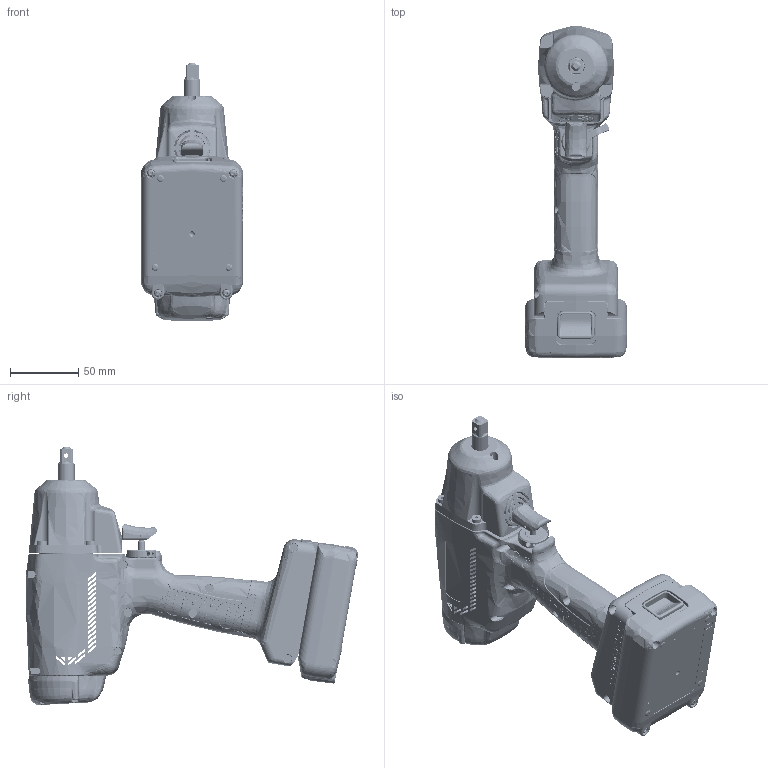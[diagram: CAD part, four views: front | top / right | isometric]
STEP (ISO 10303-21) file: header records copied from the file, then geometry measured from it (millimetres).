
FILE_DESCRIPTION (( 'STEP AP203' ), '1' );
FILE_NAME ('UBX-T70.STEP', '2020-09-01T22:47:31', ( '' ), ( '' ), 'SwSTEP 2.0', 'SolidWorks 2016', '' );
FILE_SCHEMA (( 'CONFIG_CONTROL_DESIGN' ));
Products named in the file (16): スイッチケース_電産; BP65案_L_銘板有り(UBX-T70); 倣俀摢; パルス部; 12F-013-0_本体上フタ(2019.03.15修正); バルブレバー_147-107-2; UBX-T70; LEDカバー; フロントケース(19.02.27修正); バッテリ基板; 12F-012-0_本体フタ(2019.03.15修正); シャットオフ基板; BP65案_R; ぱな14.4V2Ah; 切換レバー_09B-212-4; M4頭
Assembly tree (19 placements, depth 2):
  UBX-T70
    BP65案_R
    スイッチケース_電産
    バルブレバー_147-107-2
    切換レバー_09B-212-4
    BP65案_L_銘板有り(UBX-T70)
    バッテリ基板
    パルス部
    ぱな14.4V2Ah
    フロントケース(19.02.27修正)
    12F-012-0_本体フタ(2019.03.15修正)
    12F-013-0_本体上フタ(2019.03.15修正)
    シャットオフ基板
    LEDカバー
    倣俀摢  x2
    M4頭  x4
Bounding box: 75 x 242.81 x 188.71 mm (x, y, z)
Volume: 224491.6 mm3; surface area: 220498.8 mm2
Topology: 18 solids, 24 shells, 8944 faces, 23960 edges, 15210 vertices
Faces by surface type: plane 3907, bspline 2586, cylinder 2118, cone 186, sphere 83, torus 64
Entity records: 434693 total; most frequent: CARTESIAN_POINT 238042, ORIENTED_EDGE 47366, DIRECTION 30241, EDGE_CURVE 23684, VERTEX_POINT 15119, LINE 10935, VECTOR 10935, AXIS2_PLACEMENT_3D 9653
